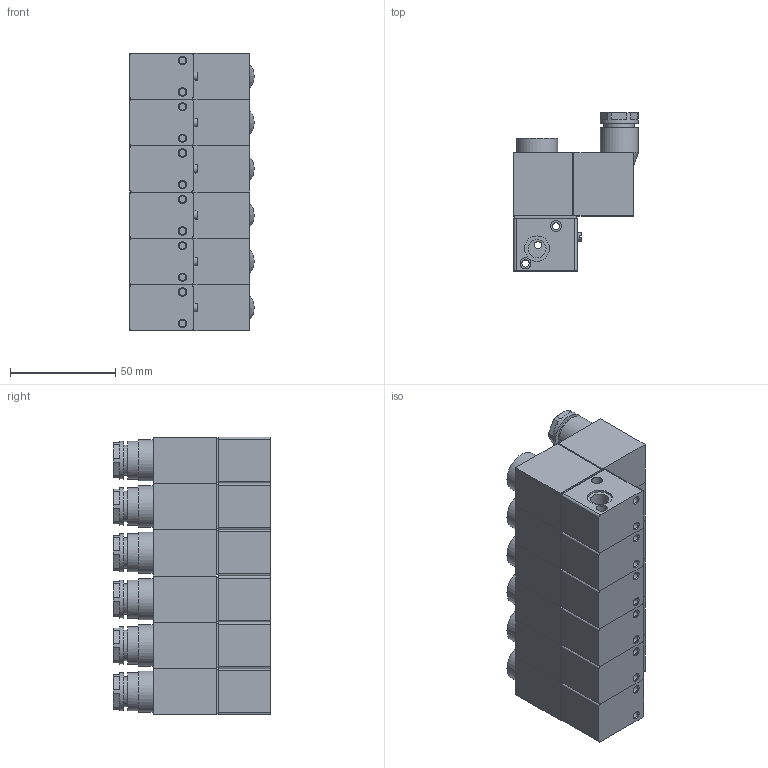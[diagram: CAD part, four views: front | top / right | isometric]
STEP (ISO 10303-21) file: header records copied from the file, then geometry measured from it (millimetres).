
FILE_DESCRIPTION(/* description */ ('STEP AP214'),/* implementation_level */ '2;1');
FILE_NAME(/* name */ '86-MS-3V-06-xxx.stp',/* time_stamp */ '2026-01-15T09:31:02+01:00',/* author */ ('Tschernatsch'),/* organization */ ('CADENAS'),/* preprocessor_version */ 'ST-DEVELOPER v20',/* originating_system */ 'Autodesk Inventor 2024',/* authorisation */ ' ');
FILE_SCHEMA (('AUTOMOTIVE_DESIGN { 1 0 10303 214 3 1 1 }'));
Length unit declared in the file: millimetre
Products named in the file (3): 3v1-06-LD-DC24V-6F; 3v1-06-LD-DC24V-6F3; 3v1-06-LD-DC24V-6F2
Assembly tree (12 placements, depth 2):
  3v1-06-LD-DC24V-6F
    3v1-06-LD-DC24V-6F3  x6
    3v1-06-LD-DC24V-6F2  x6
Bounding box: 59 x 75 x 132 mm (x, y, z)
Volume: 349188.3 mm3; surface area: 89164.5 mm2
Topology: 12 solids, 12 shells, 540 faces, 1170 edges, 774 vertices
Faces by surface type: plane 366, cylinder 150, cone 24
Full cylindrical faces by diameter (mm): 3.242 x12, 3.5 x18, 4 x6, 4.3 x6, 5.2 x24, 8.566 x18, 11 x6, 12 x12, 14.4 x6, 18 x12, 19.6 x6
Entity records: 2681 total; most frequent: DIRECTION 477, CARTESIAN_POINT 431, ORIENTED_EDGE 390, EDGE_CURVE 195, AXIS2_PLACEMENT_3D 178, VERTEX_POINT 129, LINE 121, VECTOR 121
